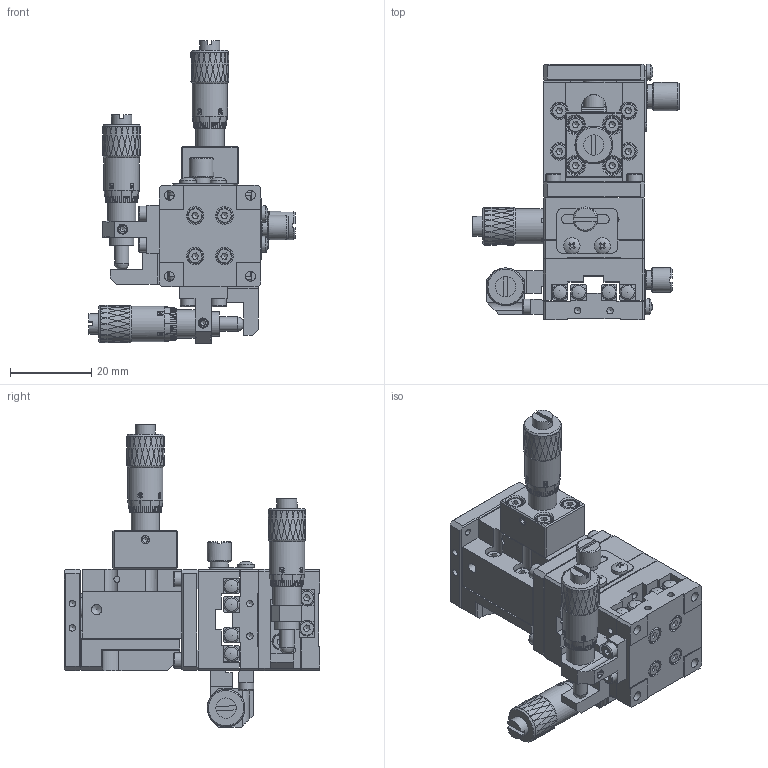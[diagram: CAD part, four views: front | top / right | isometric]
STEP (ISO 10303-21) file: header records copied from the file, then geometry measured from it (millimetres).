
FILE_DESCRIPTION (( 'STEP AP203' ), '1' );
FILE_NAME ('BLD25.STEP', '2024-07-27T06:32:28', ( 'Windows User' ), ( 'P R C' ), 'SwSTEP 2.0', 'SolidWorks 2024', '' );
FILE_SCHEMA (( 'CONFIG_CONTROL_DESIGN' ));
Products named in the file (1): BLD25
Bounding box: 50.8 x 63 x 74.6 mm (x, y, z)
Volume: 39236.8 mm3; surface area: 42819.1 mm2
Topology: 95 solids, 95 shells, 3843 faces, 9068 edges, 5747 vertices
Faces by surface type: plane 1631, bspline 889, cylinder 778, cone 442, torus 96, sphere 7
Full cylindrical faces by diameter (mm): 1.5 x1, 1.6 x73, 1.65 x24, 2 x53, 2.05 x6, 2.1 x3, 2.2 x8, 2.3 x4, 2.4 x41, 2.5 x13, 3 x24, 3.5 x6, 3.8 x46, 3.9 x24, 4 x18, 4.3 x33, 4.5 x2, 5 x8, 6 x10, 7 x7, 7.5 x1, 8.7 x3, 10 x1
Entity records: 146199 total; most frequent: CARTESIAN_POINT 70239, ORIENTED_EDGE 16180, DIRECTION 12489, EDGE_CURVE 8090, VERTEX_POINT 5513, EDGE_LOOP 5173, AXIS2_PLACEMENT_3D 4764, FACE_OUTER_BOUND 4327
